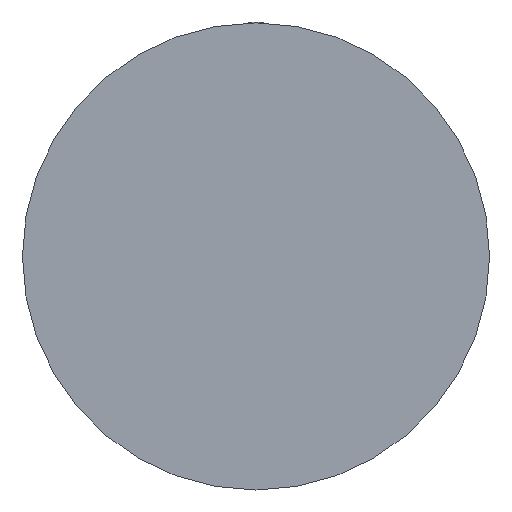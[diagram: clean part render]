
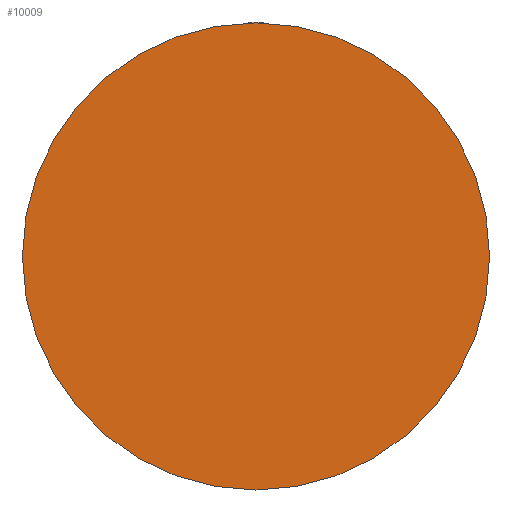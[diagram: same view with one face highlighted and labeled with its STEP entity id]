
A CAD part, front view. The second image highlights one B-rep face of the part: STEP entity #10009.
In plain terms, the highlighted planar face has unit normal (0, -1, 0).
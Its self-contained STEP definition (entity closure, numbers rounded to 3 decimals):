
#1491=CARTESIAN_POINT('',(0.,0.,0.));
#1492=DIRECTION('',(0.,-1.,0.));
#1493=DIRECTION('',(-1.,0.,0.));
#1494=AXIS2_PLACEMENT_3D('',#1491,#1492,#1493);
#1496=CARTESIAN_POINT('',(0.,0.,0.));
#1497=DIRECTION('',(0.,1.,0.));
#1498=DIRECTION('',(-1.,0.,0.));
#1499=AXIS2_PLACEMENT_3D('',#1496,#1497,#1498);
#1501=CARTESIAN_POINT('',(-77.5,0.,0.));
#1502=CARTESIAN_POINT('',(77.5,0.,0.));
#1503=VERTEX_POINT('',#1501);
#1504=VERTEX_POINT('',#1502);
#10000=CARTESIAN_POINT('',(0.,0.,0.));
#10001=DIRECTION('',(0.,1.,0.));
#10002=DIRECTION('',(1.,0.,0.));
#10003=AXIS2_PLACEMENT_3D('',#10000,#10001,#10002);
#10004=PLANE('',#10003);
#10005=ORIENTED_EDGE('',*,*,#9967,.F.);
#10006=ORIENTED_EDGE('',*,*,#9982,.T.);
#10007=EDGE_LOOP('',(#10005,#10006));
#10008=FACE_OUTER_BOUND('',#10007,.F.);
#10009=ADVANCED_FACE('',(#10008),#10004,.F.);
#1495=CIRCLE('',#1494,77.5);
#1500=CIRCLE('',#1499,77.5);
#9967=EDGE_CURVE('',#1503,#1504,#1495,.T.);
#9982=EDGE_CURVE('',#1503,#1504,#1500,.T.);
